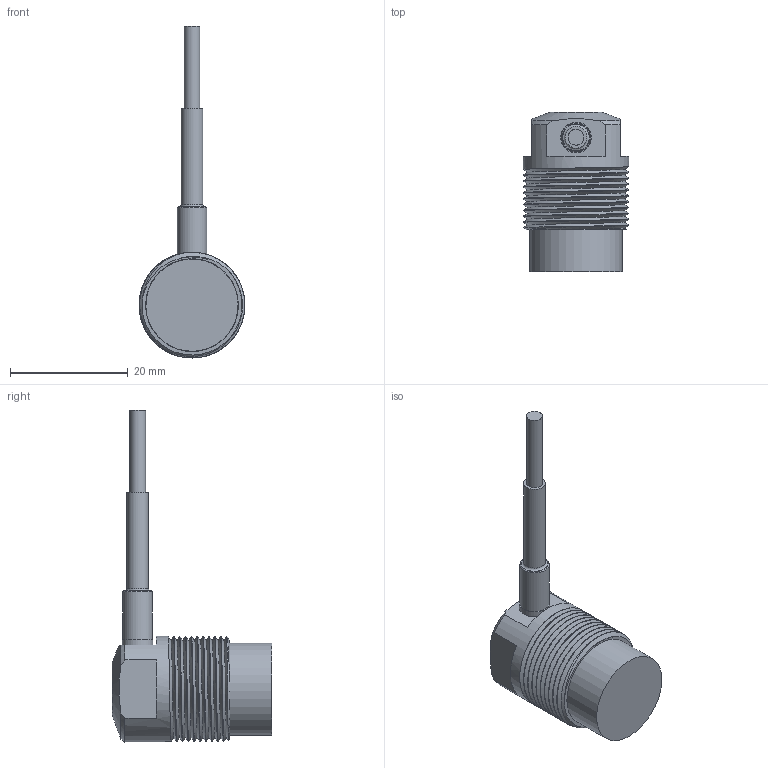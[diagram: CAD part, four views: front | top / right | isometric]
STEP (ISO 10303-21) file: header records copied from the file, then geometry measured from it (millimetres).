
FILE_DESCRIPTION( ( 'STEP AP203' ), '1' );
FILE_NAME( 'N:/Engineering/CAD_Solid/Wirbelstrom/Wirbelstromsensoren/T5/T5-G-KR.stp', '2011-09-28T09:25:02', ( ' ' ), ( ' ' ), 'XStep 1.0', ' ', ' ' );
FILE_SCHEMA( ( 'CONFIG_CONTROL_DESIGN) ( )' ) );
Length unit declared in the file: metre
Products named in the file (5): 1; 2; 3; 4; 5
Bounding box: 18 x 27.1 x 56.5 mm (x, y, z)
Surface area: 3179.4 mm2 (no closed solid volume)
Topology: 0 solids, 30 shells, 40 faces, 149 edges, 130 vertices
Faces by surface type: cylinder 16, plane 15, cone 5, bspline 2, torus 2
Full cylindrical faces by diameter (mm): 2.7 x1, 3.7 x1, 5 x1, 5.2 x1, 15.7 x1, 18 x10
Entity records: 3365 total; most frequent: CARTESIAN_POINT 2290, DIRECTION 186, ORIENTED_EDGE 106, EDGE_CURVE 106, VERTEX_POINT 106, AXIS2_PLACEMENT_3D 83, CIRCLE 50, FACE_BOUND 45
